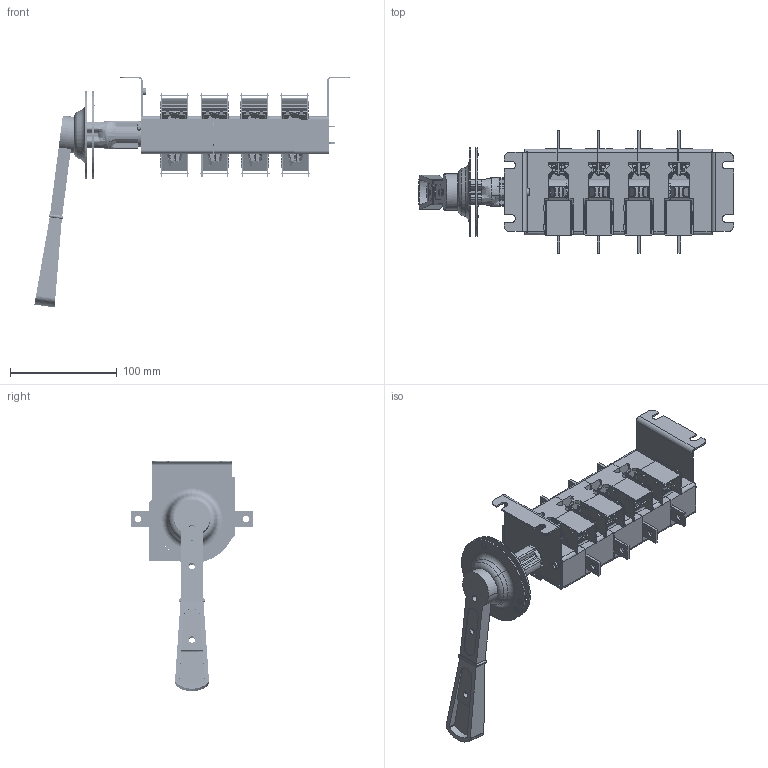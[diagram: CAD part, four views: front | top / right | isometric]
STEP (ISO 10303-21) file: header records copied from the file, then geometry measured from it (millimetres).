
FILE_DESCRIPTION (( 'STEP AP214' ), '1' );
FILE_NAME ('ﾂﾐ32-31 ﾃﾆﾈﾊ.642423.007 (ﾂ41250-100ﾀ).STEP', '2023-04-18T11:03:54', ( '' ), ( '' ), 'SwSTEP 2.0', 'SolidWorks 2018', '' );
FILE_SCHEMA (( 'AUTOMOTIVE_DESIGN' ));
Length unit declared in the file: millimetre
Products named in the file (34): Êîðïóñ ñðåäíèé ÃÆÈÊ.735384.080; ﾏ跖浯 ﾃﾆﾈﾊ.753553.010; Ñêîáà ÃÆÈÊ.745326.032_“áâ ­®¢«¥­­®¥ á®áâ; Ïëàñòèíà óïðàâëåíèÿ; Ãàéêà Ì4; Ðóêîÿòêà ÃÆÈÊ.303658.010; Êàìåðà äóãîãàñèòåëüíàÿ ÃÆÈÊ.686431.023_01(¯à®¢®«®ª ); Âàë ÃÆÈÊ.715274.009_ƒ†ˆŠ.715274.009; Òàáëè÷êà äëÿ ñáîðêè ÷èñòàÿ; ﾂ琿 ﾃﾆﾈﾊ.303731.003; Áîêîâèíà ëåâàÿ ÃÆÈÊ.735224.023; ﾎﾁﾎﾋﾎﾗﾊﾀ_ﾍ; ÈñêðîãàñèòåëüÃÆÈÊ.686433.006; ﾂﾐ32-31 ﾃﾆﾈﾊ.642423.007 (ﾂ41250-100ﾀ); 澡犟囹铕 闷仁.745484.014; ÑêîáàÃÆÈÊ.746743.004; Êîíòàêò ïîäâèæíûé ÃÆÈÊ.745355.054; Áîêîâèíà ïðàâàÿ ÃÆÈÊ.735224.022; Êîðïóñ ëåâûé ÃÆÈÊ.735384.081; 买箅赅 闷仁.713141.009; 噪囗弼 闷仁.712378.001; Òàáëè÷êà äëÿ ñáîðêè ÷èñòàÿ áîëüøàÿ; ﾂ鏆鮏 ﾃﾆﾈﾊ.745485.002; ﾘ琺矜 ﾃﾆﾈﾊ.758491.056; ﾘ琺矜 D32; 想囫蜩磬_-01 (帷獱); 暑痫篑 镳噔 闷仁.735384.079; Èñêðîãàñèòåëü; ÈñêðîãàñèòåëüÃÆÈÊ741271005_sborka; 栺樇罻; ﾘ琺矜 4; 想囫蜩磬 (牮赅); Øïèëüêà ñïåöèàëüíàÿ ÃÆÈÊ.754292.014_-01(à¥§ì¡ ); ﾘ琺矜 D15
Assembly tree (69 placements, depth 4):
  ﾂﾐ32-31 ﾃﾆﾈﾊ.642423.007 (ﾂ41250-100ﾀ)
    暑痫篑 镳噔 闷仁.735384.079
    Êîðïóñ ëåâûé ÃÆÈÊ.735384.081
    Êîðïóñ ñðåäíèé ÃÆÈÊ.735384.080  x3
    Áîêîâèíà ïðàâàÿ ÃÆÈÊ.735224.022
    Áîêîâèíà ëåâàÿ ÃÆÈÊ.735224.023
    Ãàéêà Ì4  x2
    ﾘ琺矜 4  x2
    Øïèëüêà ñïåöèàëüíàÿ ÃÆÈÊ.754292.014_-01(à¥§ì¡ )  x2
    ﾂ鏆鮏 ﾃﾆﾈﾊ.745485.002  x8
    买箅赅 闷仁.713141.009
    噪囗弼 闷仁.712378.001
    Ðóêîÿòêà ÃÆÈÊ.303658.010
      ﾘ琺矜 D32
      ﾘ琺矜 D15
      Ïëàñòèíà óïðàâëåíèÿ
      想囫蜩磬_-01 (帷獱)
      ﾎﾁﾎﾋﾎﾗﾊﾀ_ﾍ
    Êàìåðà äóãîãàñèòåëüíàÿ ÃÆÈÊ.686431.023_01(¯à®¢®«®ª )  x8
      想囫蜩磬 (牮赅)
      栺樇罻
      Èñêðîãàñèòåëü
      ÈñêðîãàñèòåëüÃÆÈÊ.686433.006
        ÈñêðîãàñèòåëüÃÆÈÊ741271005_sborka
        ÑêîáàÃÆÈÊ.746743.004
    Òàáëè÷êà äëÿ ñáîðêè ÷èñòàÿ
    Òàáëè÷êà äëÿ ñáîðêè ÷èñòàÿ áîëüøàÿ
    ﾘ琺矜 ﾃﾆﾈﾊ.758491.056
    ﾂ琿 ﾃﾆﾈﾊ.303731.003  x2
      Âàë ÃÆÈÊ.715274.009_ƒ†ˆŠ.715274.009
      Êîíòàêò ïîäâèæíûé ÃÆÈÊ.745355.054
      Ñêîáà ÃÆÈÊ.745326.032_“áâ ­®¢«¥­­®¥ á®áâ
    ﾏ跖浯 ﾃﾆﾈﾊ.753553.010  x2
    澡犟囹铕 闷仁.745484.014  x2
Bounding box: 295.06 x 115.12 x 215.88 mm (x, y, z)
Volume: 418649.3 mm3; surface area: 349794.6 mm2
Topology: 134 solids, 134 shells, 6110 faces, 16273 edges, 10520 vertices
Faces by surface type: plane 4190, cylinder 1476, bspline 208, torus 174, cone 56, sphere 6
Entity records: 122851 total; most frequent: CARTESIAN_POINT 79292, ORIENTED_EDGE 8480, DIRECTION 8240, EDGE_CURVE 4240, AXIS2_PLACEMENT_3D 2795, VERTEX_POINT 2780, LINE 2650, VECTOR 2650
